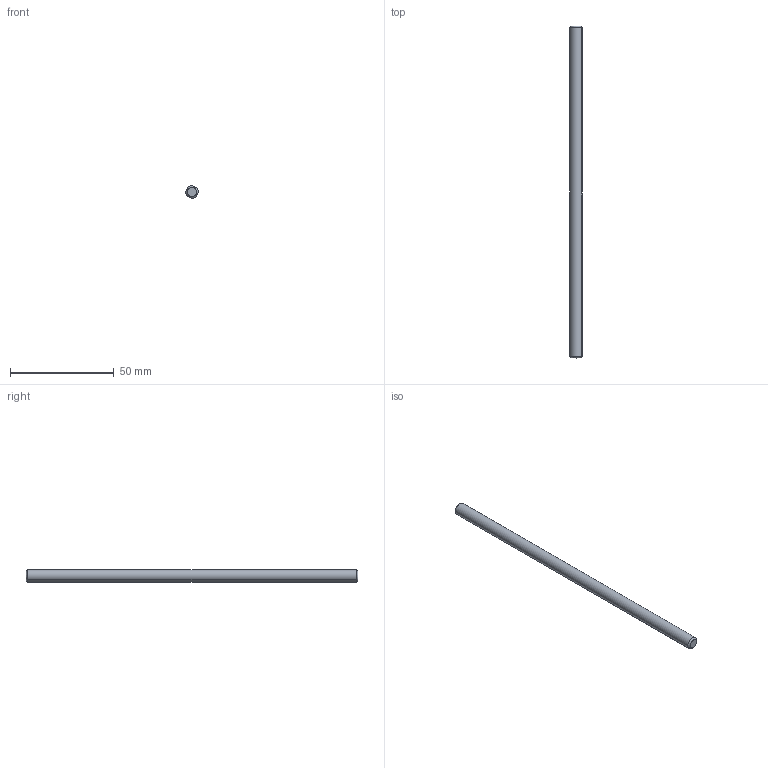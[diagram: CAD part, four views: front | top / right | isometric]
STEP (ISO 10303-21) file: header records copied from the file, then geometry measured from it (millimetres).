
FILE_DESCRIPTION (( 'STEP AP214' ), '1' );
FILE_NAME ('YIS40D-SH-06 Øïèëüêà ðåçüáîâàÿ Ì6.STEP', '2025-09-04T07:49:57', ( '' ), ( '' ), 'SwSTEP 2.0', 'SolidWorks 2023', '' );
FILE_SCHEMA (( 'AUTOMOTIVE_DESIGN' ));
Length unit declared in the file: millimetre
Products named in the file (1): YIS40D-SH-06 Шпилька резьбовая М6
Bounding box: 5.99 x 160 x 5.99 mm (x, y, z)
Volume: 4512.9 mm3; surface area: 3053.1 mm2
Topology: 1 solids, 1 shells, 8 faces, 14 edges, 8 vertices
Faces by surface type: cone 4, plane 2, cylinder 2
Entity records: 217 total; most frequent: DIRECTION 40, CARTESIAN_POINT 31, ORIENTED_EDGE 28, AXIS2_PLACEMENT_3D 17, EDGE_CURVE 14, EDGE_LOOP 8, FACE_OUTER_BOUND 8, VERTEX_POINT 8
